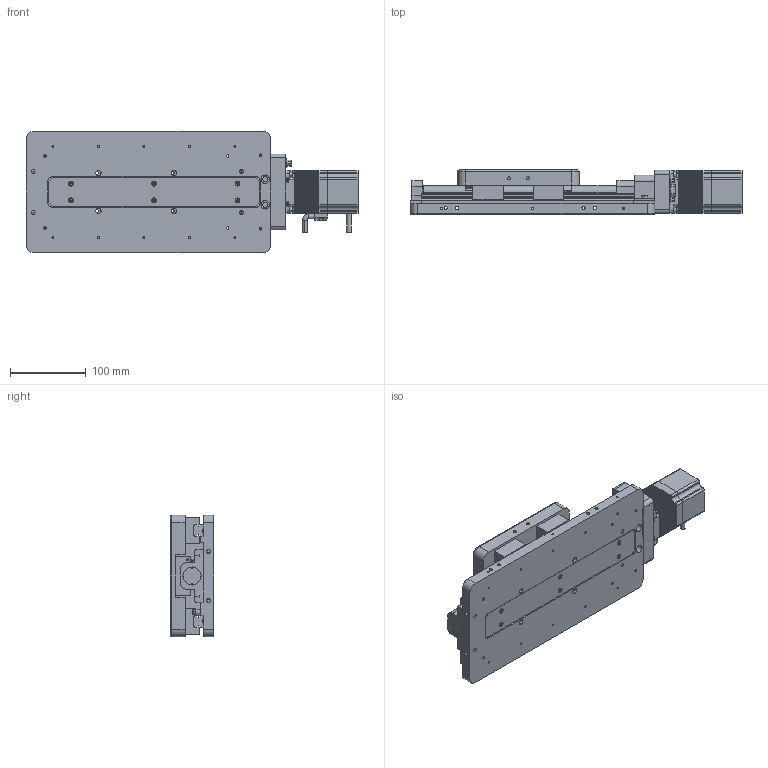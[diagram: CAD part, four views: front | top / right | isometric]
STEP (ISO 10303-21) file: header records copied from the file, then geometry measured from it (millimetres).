
FILE_DESCRIPTION (( 'STEP AP203' ), '1' );
FILE_NAME ('7STA09100Cµç¶¯Æ½ÒÆÌ¨.STEP', '2022-04-14T05:21:25', ( '' ), ( '' ), 'SwSTEP 2.0', 'SolidWorks 2018', '' );
FILE_SCHEMA (( 'CONFIG_CONTROL_DESIGN' ));
Length unit declared in the file: millimetre
Products named in the file (1): 7STA09100C萇雄す痄怢
Bounding box: 438 x 58 x 160 mm (x, y, z)
Surface area: 322870.4 mm2 (no closed solid volume)
Topology: 0 solids, 289 shells, 2687 faces, 8973 edges, 6409 vertices
Faces by surface type: plane 1260, cylinder 1237, torus 86, cone 60, sphere 30, bspline 14
Entity records: 97069 total; most frequent: CARTESIAN_POINT 20127, DIRECTION 17228, ORIENTED_EDGE 12600, EDGE_CURVE 8879, VERTEX_POINT 6373, AXIS2_PLACEMENT_3D 5952, VECTOR 5324, LINE 5324
